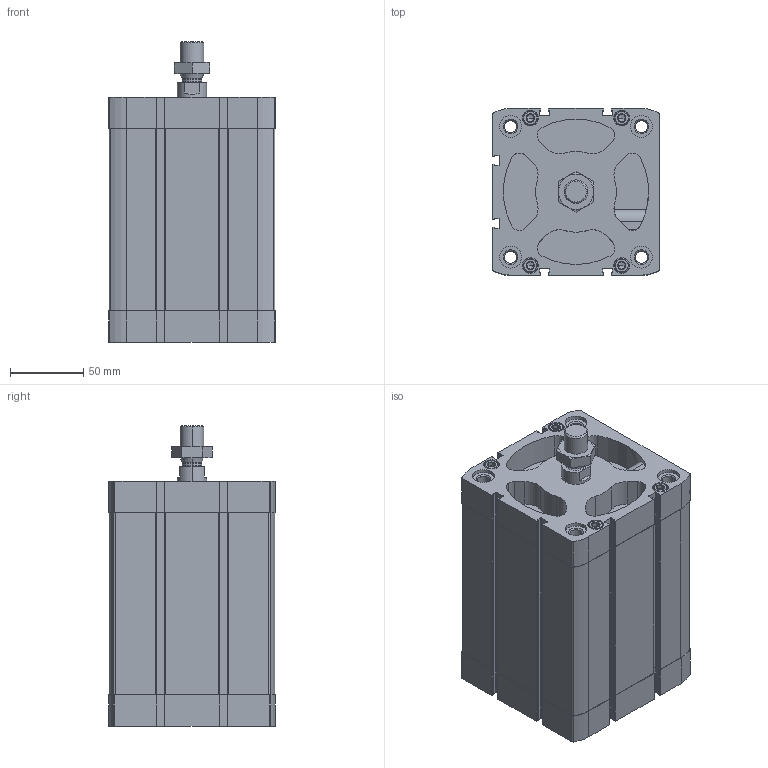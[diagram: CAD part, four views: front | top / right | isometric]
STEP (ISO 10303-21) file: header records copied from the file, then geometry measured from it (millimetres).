
FILE_DESCRIPTION (( 'STEP AP203' ), '1' );
FILE_NAME ('CCN100-100M.STEP', '2020-06-05T18:08:20', ( '' ), ( '' ), 'SwSTEP 2.0', 'SolidWorks 2019', '' );
FILE_SCHEMA (( 'CONFIG_CONTROL_DESIGN' ));
Length unit declared in the file: millimetre
Products named in the file (1): CCN100-100M
Bounding box: 113.5 x 113.5 x 204.8 mm (x, y, z)
Volume: 1165993 mm3; surface area: 243366.7 mm2
Topology: 3 solids, 3 shells, 648 faces, 1673 edges, 1068 vertices
Faces by surface type: plane 292, cylinder 272, cone 80, torus 4
Entity records: 21246 total; most frequent: CARTESIAN_POINT 4984, DIRECTION 3541, ORIENTED_EDGE 3314, EDGE_CURVE 1657, AXIS2_PLACEMENT_3D 1319, VERTEX_POINT 1068, VECTOR 903, LINE 903
